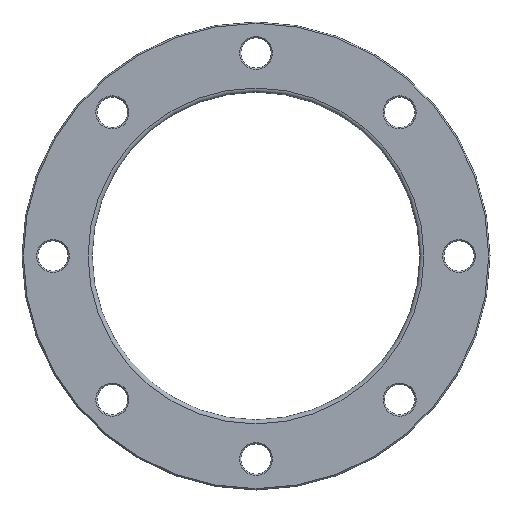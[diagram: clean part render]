
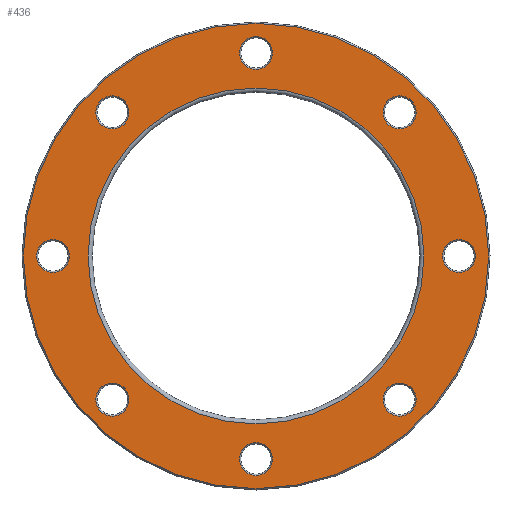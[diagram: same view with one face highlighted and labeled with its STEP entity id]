
A CAD part, front view. The second image highlights one B-rep face of the part: STEP entity #436.
In plain terms, the highlighted planar face has unit normal (0, -1, 0).
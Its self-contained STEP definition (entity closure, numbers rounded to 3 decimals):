
#23=PLANE('',#516);
#98=ORIENTED_EDGE('',*,*,#157,.T.);
#99=ORIENTED_EDGE('',*,*,#158,.T.);
#100=ORIENTED_EDGE('',*,*,#124,.T.);
#101=ORIENTED_EDGE('',*,*,#128,.T.);
#102=ORIENTED_EDGE('',*,*,#132,.T.);
#103=ORIENTED_EDGE('',*,*,#136,.T.);
#104=ORIENTED_EDGE('',*,*,#140,.T.);
#105=ORIENTED_EDGE('',*,*,#144,.T.);
#106=ORIENTED_EDGE('',*,*,#148,.T.);
#107=ORIENTED_EDGE('',*,*,#159,.T.);
#124=EDGE_CURVE('',#164,#164,#204,.T.);
#128=EDGE_CURVE('',#168,#168,#208,.T.);
#132=EDGE_CURVE('',#172,#172,#212,.T.);
#136=EDGE_CURVE('',#176,#176,#216,.T.);
#140=EDGE_CURVE('',#180,#180,#220,.T.);
#144=EDGE_CURVE('',#184,#184,#224,.T.);
#148=EDGE_CURVE('',#188,#188,#228,.T.);
#157=EDGE_CURVE('',#197,#197,#237,.F.);
#158=EDGE_CURVE('',#198,#198,#238,.T.);
#159=EDGE_CURVE('',#199,#199,#239,.T.);
#164=VERTEX_POINT('',#683);
#168=VERTEX_POINT('',#694);
#172=VERTEX_POINT('',#705);
#176=VERTEX_POINT('',#716);
#180=VERTEX_POINT('',#727);
#184=VERTEX_POINT('',#738);
#188=VERTEX_POINT('',#749);
#197=VERTEX_POINT('',#772);
#198=VERTEX_POINT('',#774);
#199=VERTEX_POINT('',#776);
#204=CIRCLE('',#461,12.);
#208=CIRCLE('',#468,12.);
#212=CIRCLE('',#475,12.);
#216=CIRCLE('',#482,12.);
#220=CIRCLE('',#489,12.);
#224=CIRCLE('',#496,12.);
#228=CIRCLE('',#503,12.);
#237=CIRCLE('',#517,169.);
#238=CIRCLE('',#518,122.);
#239=CIRCLE('',#519,12.);
#298=EDGE_LOOP('',(#98));
#299=EDGE_LOOP('',(#99));
#300=EDGE_LOOP('',(#100));
#301=EDGE_LOOP('',(#101));
#302=EDGE_LOOP('',(#102));
#303=EDGE_LOOP('',(#103));
#304=EDGE_LOOP('',(#104));
#305=EDGE_LOOP('',(#105));
#306=EDGE_LOOP('',(#106));
#307=EDGE_LOOP('',(#107));
#378=FACE_BOUND('',#298,.T.);
#379=FACE_BOUND('',#299,.T.);
#380=FACE_BOUND('',#300,.T.);
#381=FACE_BOUND('',#301,.T.);
#382=FACE_BOUND('',#302,.T.);
#383=FACE_BOUND('',#303,.T.);
#384=FACE_BOUND('',#304,.T.);
#385=FACE_BOUND('',#305,.T.);
#386=FACE_BOUND('',#306,.T.);
#387=FACE_BOUND('',#307,.T.);
#436=ADVANCED_FACE('',(#378,#379,#380,#381,#382,#383,#384,#385,#386,#387),
#23,.F.);
#461=AXIS2_PLACEMENT_3D('',#682,#539,#540);
#468=AXIS2_PLACEMENT_3D('',#693,#553,#554);
#475=AXIS2_PLACEMENT_3D('',#704,#567,#568);
#482=AXIS2_PLACEMENT_3D('',#715,#581,#582);
#489=AXIS2_PLACEMENT_3D('',#726,#595,#596);
#496=AXIS2_PLACEMENT_3D('',#737,#609,#610);
#503=AXIS2_PLACEMENT_3D('',#748,#623,#624);
#516=AXIS2_PLACEMENT_3D('',#770,#649,#650);
#517=AXIS2_PLACEMENT_3D('',#771,#651,#652);
#518=AXIS2_PLACEMENT_3D('',#773,#653,#654);
#519=AXIS2_PLACEMENT_3D('',#775,#655,#656);
#539=DIRECTION('',(0.,1.,0.));
#540=DIRECTION('',(0.707,0.,0.707));
#553=DIRECTION('',(0.,1.,0.));
#554=DIRECTION('',(0.,0.,1.));
#567=DIRECTION('',(0.,1.,0.));
#568=DIRECTION('',(-0.707,0.,0.707));
#581=DIRECTION('',(0.,1.,0.));
#582=DIRECTION('',(-1.,0.,0.));
#595=DIRECTION('',(0.,1.,0.));
#596=DIRECTION('',(-0.707,0.,-0.707));
#609=DIRECTION('',(0.,1.,0.));
#610=DIRECTION('',(0.,0.,-1.));
#623=DIRECTION('',(0.,1.,0.));
#624=DIRECTION('',(0.707,0.,-0.707));
#649=DIRECTION('',(0.,1.,0.));
#650=DIRECTION('',(0.,0.,1.));
#651=DIRECTION('',(0.,1.,0.));
#652=DIRECTION('',(0.,0.,1.));
#653=DIRECTION('',(0.,1.,0.));
#654=DIRECTION('',(0.,0.,1.));
#655=DIRECTION('',(0.,1.,0.));
#656=DIRECTION('',(1.,0.,0.));
#682=CARTESIAN_POINT('',(-104.298,0.,104.298));
#683=CARTESIAN_POINT('',(-95.813,0.,112.784));
#693=CARTESIAN_POINT('',(-147.5,0.,0.));
#694=CARTESIAN_POINT('',(-147.5,0.,12.));
#704=CARTESIAN_POINT('',(-104.298,0.,-104.298));
#705=CARTESIAN_POINT('',(-112.784,0.,-95.813));
#715=CARTESIAN_POINT('',(0.,0.,-147.5));
#716=CARTESIAN_POINT('',(-12.,0.,-147.5));
#726=CARTESIAN_POINT('',(104.298,0.,-104.298));
#727=CARTESIAN_POINT('',(95.813,0.,-112.784));
#737=CARTESIAN_POINT('',(147.5,0.,0.));
#738=CARTESIAN_POINT('',(147.5,0.,-12.));
#748=CARTESIAN_POINT('',(104.298,0.,104.298));
#749=CARTESIAN_POINT('',(112.784,0.,95.813));
#770=CARTESIAN_POINT('',(0.,0.,0.));
#771=CARTESIAN_POINT('',(0.,0.,0.));
#772=CARTESIAN_POINT('',(0.,0.,169.));
#773=CARTESIAN_POINT('',(0.,0.,0.));
#774=CARTESIAN_POINT('',(0.,0.,122.));
#775=CARTESIAN_POINT('',(0.,0.,147.5));
#776=CARTESIAN_POINT('',(12.,0.,147.5));
